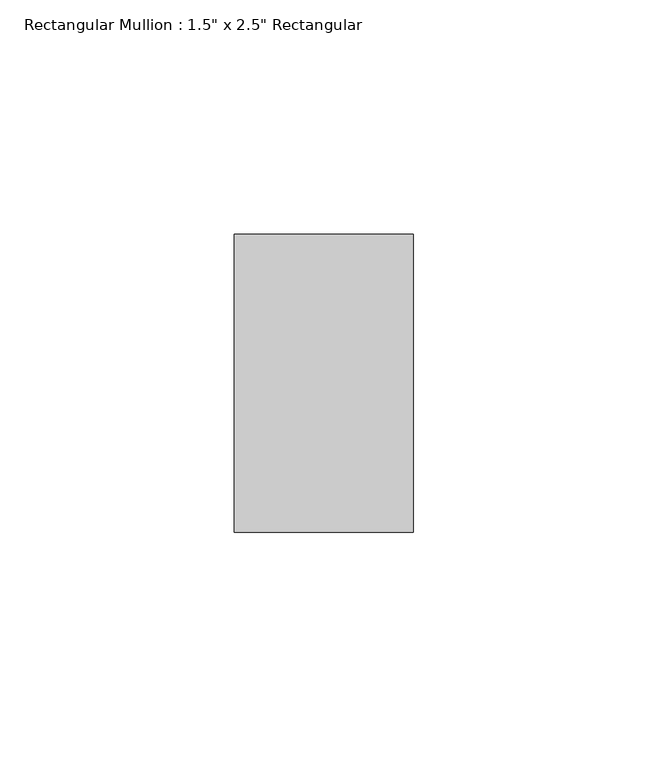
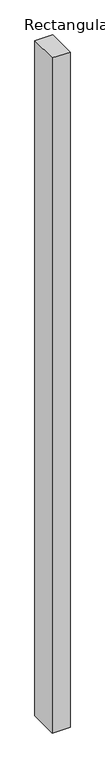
"""IFC4 building model written with IfcOpenShell, lengths in millimetres: member geometry."""

from ifc_helpers import new_model, si_unit, frame, origin, place, context, project, spatial, polyline, outline, extrude, source, transform, mapped, element, save


def member_3d68c01a(model_context):
    return source(origin(), model_context, "Body", "SweptSolid", [
        extrude(outline(polyline([(19.05, 31.75), (19.05, -31.75), (-19.05, -31.75), (-19.05, 31.75), (19.05, 31.75)])), frame((0.0, 0.0, -1519.7666667), z_axis=(0.0, 0.0, 1.0), x_axis=(1.0, 0.0, 0.0)), (0.0, 0.0, 1.0), 1519.7666667),
    ])


if __name__ == "__main__":
    model = new_model("IFC4")
    model_context = context("Model", 3, world=origin())
    ifc_project = project(units=[si_unit("LENGTHUNIT", "METRE", prefix="MILLI")], contexts=[model_context])
    site = spatial("IfcSite", under=ifc_project)
    building = spatial("IfcBuilding", under=site)
    placement = place(None, origin())
    member_shape = member_3d68c01a(model_context)
    element("IfcMember", 1, ObjectType="Rectangular Mullion : 1.5\" x 2.5\" Rectangular", at=placement, inside=building, context=model_context, shape_type="MappedRepresentation", body=[
        mapped(member_shape, transform((0.0, 0.0, 0.0), x_axis=(1.0, 0.0, 0.0), y_axis=(0.0, 1.0, 0.0), z_axis=(0.0, 0.0, 1.0))),
    ])
    save(model, "model.ifc")
